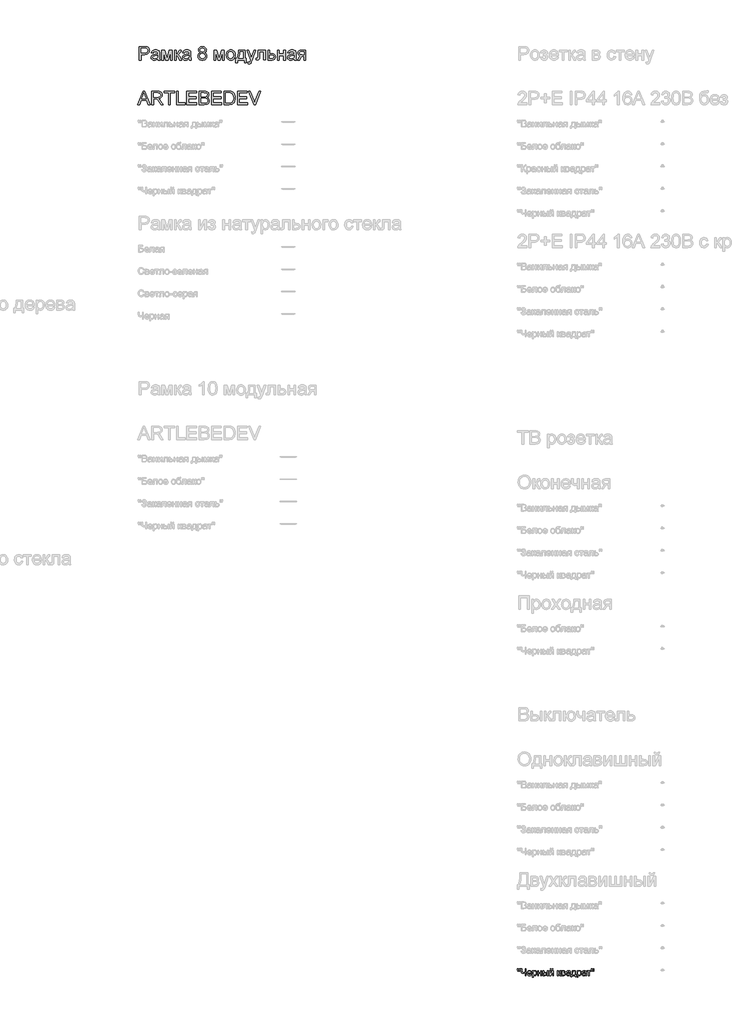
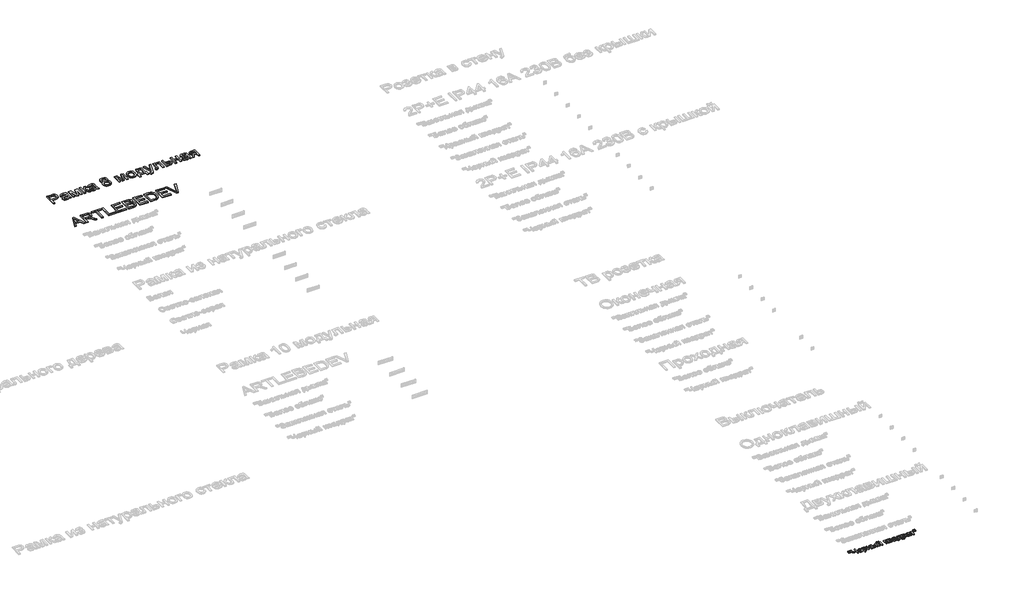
# One storey, part 131 of 168: 3 proxies.
"""IFC4 building model written with IfcOpenShell, lengths in millimetres."""

from ifc_helpers import new_model, si_unit, origin, origin_with_axes, place, context, project, spatial, polyline, outline, extrude, element, save

model = new_model("IFC4")

# Units and contexts
model_context = context("Model", 3, world=origin())
ifc_project = project(units=[si_unit("LENGTHUNIT", "METRE", prefix="MILLI")], contexts=[model_context])

# Site, building, storey
site = spatial("IfcSite", under=ifc_project)
building = spatial("IfcBuilding", under=site)
storey = spatial("IfcBuildingStorey", under=building, Name="Этаж 01", Elevation=0.0)

# Proxies
placement = place(None, origin())
element("IfcBuildingElementProxy", 1, Name="300 мм Arial 2", ObjectType="300 мм Arial 2", at=placement, inside=storey, context=model_context, shape_type="SweptSolid", body=[
    extrude(outline(polyline([(55099.0945017, -5048.4056816), (55099.0945017, -4747.0367511), (55210.7834754, -4747.0367511), (55255.8122316, -4749.9062307), (55275.8893915, -4755.2681108), (55292.4164901, -4763.9961111), (55305.7246213, -4776.4857048), (55316.1448788, -4793.1323651), (55322.8771193, -4812.7680666), (55325.1211995, -4834.224784), (55323.6059855, -4852.7246498), (55319.0603436, -4869.7437906), (55311.4842738, -4885.2822064), (55300.877776, -4899.3398971), (55286.3165468, -4910.9925593), (55266.8762826, -4919.3158895), (55242.5569835, -4924.3098875), (55213.3586494, -4925.9745536), (55136.765618, -4925.9745536), (55136.765618, -5048.4056816), (55099.0945017, -5048.4056816)]), holes=[polyline([(55136.765618, -4888.3034373), (55215.5659413, -4888.3034373), (55248.9696265, -4884.8453465), (55271.0425462, -4874.4710742), (55283.3481989, -4857.824414), (55287.4500832, -4835.5491592), (55285.0312591, -4818.6265874), (55277.7747867, -4804.352766), (55266.581977, -4793.6106117), (55252.3541408, -4787.2830414), (55214.6830245, -4784.7078674), (55136.765618, -4784.7078674), (55136.765618, -4888.3034373)])]), origin_with_axes(), (0.0, 0.0, 1.0), 20.0),
    extrude(outline(polyline([(55513.476781, -5020.1523443), (55495.4781544, -5035.584994), (55476.9460989, -5045.6833548), (55457.4575502, -5051.256767), (55436.589444, -5053.1145711), (55405.1079423, -5048.6448049), (55381.8853914, -5035.2355061), (55367.5655847, -5014.8732377), (55362.7923158, -4989.5445623), (55364.5949376, -4973.9279716), (55370.0028029, -4959.7461207), (55378.3445271, -4947.6060149), (55388.9487257, -4938.1146594), (55415.3258647, -4925.7538244), (55447.9202095, -4920.0884417), (55486.4374544, -4914.1287533), (55513.2560518, -4907.1389954), (55513.476781, -4898.7512859), (55510.883213, -4881.9390788), (55503.1025088, -4870.9394071), (55485.7016904, -4862.7724268), (55461.4582669, -4860.0501), (55439.0174652, -4861.8619189), (55423.3456922, -4867.2973753), (55412.6587202, -4877.3497509), (55405.1723216, -4893.0123268), (55367.5012053, -4888.3034373), (55374.0403078, -4867.7020455), (55383.7983777, -4851.5152378), (55397.685923, -4839.1360086), (55416.6134517, -4829.9573528), (55439.7624262, -4824.273576), (55466.3143092, -4822.3789837), (55491.7809404, -4824.0528468), (55511.9684648, -4829.074436), (55527.1895824, -4836.625214), (55537.7569927, -4845.8866432), (55544.7651447, -4857.3369703), (55549.3084874, -4871.4544419), (55551.1478973, -4904.4166687), (55551.1478973, -4951.2848348), (55553.0608837, -5016.7310418), (55560.5656764, -5048.4056816), (55522.8945601, -5048.4056816), (55513.476781, -5020.1523443)]), holes=[polyline([(55513.476781, -4944.8101117), (55452.7026754, -4956.3616064), (55420.2922716, -4962.4684475), (55405.61378, -4972.4012614), (55400.4634321, -4986.895812), (55403.2685323, -4998.0978187), (55411.683833, -5007.2764745), (55425.525393, -5013.4017097), (55444.6092715, -5015.4434548), (55464.8427813, -5013.1901776), (55482.7218462, -5006.4303459), (55497.2163968, -4996.4699409), (55507.2963635, -4984.6149436), (55511.7661297, -4972.4012614), (55513.2560518, -4955.4786896), (55513.476781, -4944.8101117)])]), origin_with_axes(), (0.0, 0.0, 1.0), 20.0),
    extrude(outline(polyline([(55602.9456823, -4827.0878733), (55667.7664898, -4827.0878733), (55717.7248647, -5004.2598421), (55771.5827888, -4827.0878733), (55833.6812696, -4827.0878733), (55833.6812696, -5048.4056816), (55796.0101533, -5048.4056816), (55796.0101533, -4870.2036431), (55741.8579236, -5048.4056816), (55692.4145835, -5048.4056816), (55640.6167986, -4861.6687808), (55640.6167986, -5048.4056816), (55602.9456823, -5048.4056816), (55602.9456823, -4827.0878733)])), origin_with_axes(), (0.0, 0.0, 1.0), 20.0),
    extrude(outline(polyline([(55890.1879441, -4827.0878733), (55927.8590604, -4827.0878733), (55927.8590604, -4921.265664), (55943.1813455, -4919.5734069), (55953.0957653, -4914.4966353), (55961.8697508, -4901.2528835), (55973.7707334, -4875.0596854), (55990.9508226, -4841.0306009), (56006.1075608, -4829.9573528), (56033.6619222, -4827.0878733), (56040.8724093, -4827.0878733), (56040.8724093, -4864.9797188), (56030.7188662, -4864.7589896), (56012.3247665, -4868.7321151), (55999.3753203, -4893.5273616), (55984.1817939, -4920.345959), (55962.8814263, -4933.4793463), (55974.8191971, -4938.7814455), (55986.6466032, -4948.1394438), (56009.9703217, -4979.0231373), (56050.2901884, -5048.4056816), (56007.4687241, -5048.4056816), (55967.9581979, -4980.4946653), (55948.0925701, -4951.7630814), (55938.8035497, -4946.5483542), (55927.8590604, -4944.8101117), (55927.8590604, -5048.4056816), (55890.1879441, -5048.4056816), (55890.1879441, -4827.0878733)])), origin_with_axes(), (0.0, 0.0, 1.0), 20.0),
    extrude(outline(polyline([(56215.1013222, -5020.1523443), (56197.1026956, -5035.584994), (56178.5706401, -5045.6833548), (56159.0820914, -5051.256767), (56138.2139852, -5053.1145711), (56106.7324835, -5048.6448049), (56083.5099326, -5035.2355061), (56069.1901259, -5014.8732377), (56064.416857, -4989.5445623), (56066.2194788, -4973.9279716), (56071.6273441, -4959.7461207), (56079.9690683, -4947.6060149), (56090.5732669, -4938.1146594), (56116.9504059, -4925.7538244), (56149.5447507, -4920.0884417), (56188.0619956, -4914.1287533), (56214.880593, -4907.1389954), (56215.1013222, -4898.7512859), (56212.5077542, -4881.9390788), (56204.72705, -4870.9394071), (56187.3262316, -4862.7724268), (56163.0828081, -4860.0501), (56140.6420064, -4861.8619189), (56124.9702334, -4867.2973753), (56114.2832614, -4877.3497509), (56106.7968628, -4893.0123268), (56069.1257465, -4888.3034373), (56075.664849, -4867.7020455), (56085.4229189, -4851.5152378), (56099.3104642, -4839.1360086), (56118.2379929, -4829.9573528), (56141.3869674, -4824.273576), (56167.9388504, -4822.3789837), (56193.4054816, -4824.0528468), (56213.593006, -4829.074436), (56228.8141236, -4836.625214), (56239.3815339, -4845.8866432), (56246.3896859, -4857.3369703), (56250.9330286, -4871.4544419), (56252.7724385, -4904.4166687), (56252.7724385, -4951.2848348), (56254.6854249, -5016.7310418), (56262.1902176, -5048.4056816), (56224.5191013, -5048.4056816), (56215.1013222, -5020.1523443)]), holes=[polyline([(56215.1013222, -4944.8101117), (56154.3272166, -4956.3616064), (56121.9168128, -4962.4684475), (56107.2383212, -4972.4012614), (56102.0879733, -4986.895812), (56104.8930735, -4998.0978187), (56113.3083742, -5007.2764745), (56127.1499342, -5013.4017097), (56146.2338127, -5015.4434548), (56166.4673225, -5013.1901776), (56184.3463874, -5006.4303459), (56198.840938, -4996.4699409), (56208.9209047, -4984.6149436), (56213.3906709, -4972.4012614), (56214.880593, -4955.4786896), (56215.1013222, -4944.8101117)])]), origin_with_axes(), (0.0, 0.0, 1.0), 20.0),
    extrude(outline(polyline([(56467.7626765, -4882.4173253), (56447.5935461, -4872.4845115), (56433.4392864, -4859.0200305), (56425.079168, -4842.2997938), (56422.2924619, -4822.5997129), (56423.8099751, -4807.2360411), (56428.3625148, -4793.1507592), (56435.950081, -4780.3438673), (56446.5726736, -4768.8153652), (56459.7198564, -4759.2872216), (56474.8811931, -4752.4814046), (56511.2463283, -4747.0367511), (56547.8321928, -4752.6101633), (56563.1590764, -4759.5769286), (56576.5085943, -4769.3304), (56587.3243249, -4781.0842298), (56595.0498468, -4794.0520701), (56599.68516, -4808.233921), (56601.2302644, -4823.6297825), (56598.4803464, -4842.6952669), (56590.2305927, -4859.1303951), (56576.3890326, -4872.5121026), (56556.8636957, -4882.4173253), (56580.0494585, -4894.3642931), (56596.926045, -4911.9582496), (56607.2175438, -4934.353066), (56610.6480434, -4960.7026139), (56608.9465892, -4979.4921868), (56603.8422265, -4996.7182612), (56595.3349554, -5012.3808372), (56583.4247758, -5026.4799147), (56568.7370871, -5038.1325769), (56551.8972888, -5046.455907), (56532.9053808, -5051.4499051), (56511.7613631, -5053.1145711), (56490.6173455, -5051.4430073), (56471.6254375, -5046.4283158), (56454.7856391, -5038.0704968), (56440.0979505, -5026.3695501), (56428.1877709, -5012.1716043), (56419.6804997, -4996.3227881), (56414.5761371, -4978.8231014), (56412.8746828, -4959.6725443), (56416.4431382, -4932.3021239), (56427.1485042, -4909.7877458), (56444.438958, -4892.9019622), (56467.7626765, -4882.4173253)]), holes=[polyline([(56450.5457991, -4958.3481691), (56456.8365813, -4986.711871), (56465.5461875, -4998.879568), (56479.093442, -5007.9386621), (56495.317038, -5013.5672566), (56512.0556687, -5015.4434548), (56537.6970438, -5011.4979204), (56556.9372721, -4999.6613172), (56568.9670134, -4981.736267), (56572.9769271, -4959.5253915), (56568.8382547, -4936.937437), (56556.4222374, -4918.6169137), (56536.7405506, -4906.4768078), (56510.8048699, -4902.4301059), (56485.5221798, -4906.4216255), (56466.4750895, -4918.3961845), (56454.5281217, -4936.3672199), (56450.5457991, -4958.3481691)]), polyline([(56459.9635782, -4823.7033589), (56463.3021073, -4840.1476841), (56473.3176946, -4853.2810713), (56489.7160346, -4861.88951), (56512.2028215, -4864.7589896), (56534.1653766, -4861.9079041), (56550.3153962, -4853.3546477), (56560.2482101, -4840.6627189), (56563.5591481, -4825.3956161), (56560.1378455, -4809.5490992), (56549.8739378, -4796.4433031), (56533.5031891, -4787.6417263), (56511.7613631, -4784.7078674), (56489.8815815, -4787.577347), (56473.5384238, -4796.1857857), (56463.3572896, -4808.8041381), (56459.9635782, -4823.7033589)])]), origin_with_axes(), (0.0, 0.0, 1.0), 20.0),
    extrude(outline(polyline([(56770.7502877, -4827.0878733), (56835.5710953, -4827.0878733), (56885.5294702, -5004.2598421), (56939.3873943, -4827.0878733), (57001.4858751, -4827.0878733), (57001.4858751, -5048.4056816), (56963.8147588, -5048.4056816), (56963.8147588, -4870.2036431), (56909.6625291, -5048.4056816), (56860.219189, -5048.4056816), (56808.421404, -4861.6687808), (56808.421404, -5048.4056816), (56770.7502877, -5048.4056816), (56770.7502877, -4827.0878733)])), origin_with_axes(), (0.0, 0.0, 1.0), 20.0),
    extrude(outline(polyline([(57048.5747705, -4937.7467774), (57050.611917, -4909.0841715), (57056.7233567, -4884.385494), (57066.9090894, -4863.6507451), (57081.1691153, -4846.8799246), (57095.5257101, -4836.160763), (57111.3722271, -4828.504219), (57128.7086661, -4823.9102925), (57147.5350272, -4822.3789837), (57168.3180607, -4824.2436856), (57187.1099328, -4829.8377912), (57203.9106437, -4839.1613005), (57218.7201933, -4852.2142135), (57230.8074161, -4868.5550719), (57239.4411466, -4887.7424172), (57244.621385, -4909.7762495), (57246.3481311, -4934.6565687), (57243.2947105, -4972.7139611), (57234.1344489, -5001.6846682), (57219.1340605, -5023.3805088), (57198.5602599, -5039.6133019), (57174.1236984, -5049.7392538), (57147.5350272, -5053.1145711), (57126.4484911, -5051.256767), (57107.481875, -5045.6833548), (57090.6351789, -5036.3943344), (57075.9084027, -5023.3897059), (57063.9499386, -5006.8901984), (57055.4081786, -4987.1165412), (57050.2831225, -4964.0687342), (57048.5747705, -4937.7467774)]), holes=[polyline([(57086.2458868, -4937.673201), (57090.6052884, -4971.7666649), (57103.6834934, -4996.0560737), (57123.3651801, -5010.5966095), (57147.5350272, -5015.4434548), (57171.5945097, -5010.5690184), (57191.2394082, -4995.9457091), (57204.3176132, -4971.3344036), (57208.6770148, -4936.4959786), (57204.290022, -4903.3957961), (57191.1290436, -4879.4374812), (57171.4565539, -4864.8969453), (57147.5350272, -4860.0501), (57123.3651801, -4864.8785512), (57103.6834934, -4879.3639048), (57090.6052884, -4903.5981312), (57086.2458868, -4937.673201)])]), origin_with_axes(), (0.0, 0.0, 1.0), 20.0),
    extrude(outline(polyline([(57321.6903637, -4827.0878733), (57462.9570499, -4827.0878733), (57462.9570499, -5010.7345653), (57491.2103871, -5010.7345653), (57491.2103871, -5109.6212456), (57453.5392708, -5109.6212456), (57453.5392708, -5048.4056816), (57298.145916, -5048.4056816), (57298.145916, -5109.6212456), (57260.4747997, -5109.6212456), (57260.4747997, -5010.7345653), (57284.0192474, -5010.7345653), (57301.1349572, -4979.8048865), (57313.1187132, -4938.8872116), (57319.9705154, -4887.9815405), (57321.6903637, -4827.0878733)]), holes=[polyline([(57354.6525905, -4864.7589896), (57351.5623817, -4910.8821947), (57345.8234226, -4950.5858591), (57337.4357131, -4983.8699826), (57326.3992533, -5010.7345653), (57425.2859336, -5010.7345653), (57425.2859336, -4864.7589896), (57354.6525905, -4864.7589896)])]), origin_with_axes(), (0.0, 0.0, 1.0), 20.0),
    extrude(outline(polyline([(57533.5903929, -5133.1656933), (57528.8815034, -5096.8925285), (57548.0113672, -5100.2034665), (57565.8904321, -5096.0463999), (57576.8533156, -5084.4581171), (57587.1540114, -5056.7198147), (57590.0970674, -5047.5963412), (57510.0459452, -4827.0878733), (57549.7772007, -4827.0878733), (57592.230783, -4949.9604597), (57607.0196392, -4999.1094942), (57621.8084954, -4955.6994188), (57665.4393, -4827.0878733), (57704.8762499, -4827.0878733), (57627.8417601, -5053.7031823), (57607.8289796, -5102.8522169), (57597.583466, -5118.5423839), (57585.9767891, -5129.4132969), (57572.4939139, -5135.7592613), (57556.6198058, -5137.8745828), (57533.5903929, -5133.1656933)])), origin_with_axes(), (0.0, 0.0, 1.0), 20.0),
    extrude(outline(polyline([(57754.9082012, -4827.0878733), (57924.4282246, -4827.0878733), (57924.4282246, -5048.1849524), (57886.7571083, -5048.1849524), (57886.7571083, -4864.7589896), (57792.5793175, -4864.7589896), (57792.5793175, -4970.3411222), (57790.0409318, -5019.0486984), (57785.286057, -5030.0759612), (57776.0982042, -5039.6133019), (57762.1554765, -5046.2075866), (57743.1359774, -5048.4056816), (57712.5281954, -5046.4926952), (57712.5281954, -5010.7345653), (57729.3771908, -5010.7345653), (57746.4101271, -5008.4169087), (57753.2159441, -5001.0592688), (57754.9082012, -4968.2074066), (57754.9082012, -4827.0878733)])), origin_with_axes(), (0.0, 0.0, 1.0), 20.0),
    extrude(outline(polyline([(57980.9348991, -4827.0878733), (58018.6060154, -4827.0878733), (58018.6060154, -4907.1389954), (58062.0160908, -4907.1389954), (58099.6504189, -4911.857082), (58114.7979601, -4917.7546902), (58127.499086, -4926.0113418), (58137.5422644, -4936.3419281), (58144.7159633, -4948.4613405), (58150.4549225, -4978.0666441), (58145.571289, -5005.0231973), (58130.9203885, -5027.7675016), (58119.6884913, -5036.7967054), (58105.5273338, -5043.2461366), (58068.4172375, -5048.4056816), (57980.9348991, -5048.4056816), (57980.9348991, -4827.0878733)]), holes=[polyline([(58018.6060154, -5010.7345653), (58053.7755341, -5010.7345653), (58081.0631811, -5008.7571995), (58099.2089605, -5002.8251024), (58109.3900947, -4992.6991504), (58112.7838061, -4978.1402205), (58110.2730115, -4965.8345678), (58102.7406277, -4954.9636548), (58086.5998051, -4947.3484975), (58058.2636945, -4944.8101117), (58018.6060154, -4944.8101117), (58018.6060154, -5010.7345653)])]), origin_with_axes(), (0.0, 0.0, 1.0), 20.0),
    extrude(outline(polyline([(58197.5438178, -4827.0878733), (58235.2149341, -4827.0878733), (58235.2149341, -4911.847885), (58334.1016144, -4911.847885), (58334.1016144, -4827.0878733), (58371.7727308, -4827.0878733), (58371.7727308, -5048.4056816), (58334.1016144, -5048.4056816), (58334.1016144, -4949.5190013), (58235.2149341, -4949.5190013), (58235.2149341, -5048.4056816), (58197.5438178, -5048.4056816), (58197.5438178, -4827.0878733)])), origin_with_axes(), (0.0, 0.0, 1.0), 20.0),
    extrude(outline(polyline([(58569.5460914, -5020.1523443), (58551.5474647, -5035.584994), (58533.0154092, -5045.6833548), (58513.5268605, -5051.256767), (58492.6587544, -5053.1145711), (58461.1772526, -5048.6448049), (58437.9547017, -5035.2355061), (58423.634895, -5014.8732377), (58418.8616261, -4989.5445623), (58420.6642479, -4973.9279716), (58426.0721132, -4959.7461207), (58434.4138375, -4947.6060149), (58445.018036, -4938.1146594), (58471.395175, -4925.7538244), (58503.9895198, -4920.0884417), (58542.5067647, -4914.1287533), (58569.3253622, -4907.1389954), (58569.5460914, -4898.7512859), (58566.9525233, -4881.9390788), (58559.1718191, -4870.9394071), (58541.7710007, -4862.7724268), (58517.5275772, -4860.0501), (58495.0867755, -4861.8619189), (58479.4150025, -4867.2973753), (58468.7280306, -4877.3497509), (58461.241632, -4893.0123268), (58423.5705157, -4888.3034373), (58430.1096181, -4867.7020455), (58439.8676881, -4851.5152378), (58453.7552334, -4839.1360086), (58472.682762, -4829.9573528), (58495.8317366, -4824.273576), (58522.3836196, -4822.3789837), (58547.8502507, -4824.0528468), (58568.0377752, -4829.074436), (58583.2588927, -4836.625214), (58593.826303, -4845.8866432), (58600.834455, -4857.3369703), (58605.3777977, -4871.4544419), (58607.2172077, -4904.4166687), (58607.2172077, -4951.2848348), (58609.130194, -5016.7310418), (58616.6349867, -5048.4056816), (58578.9638704, -5048.4056816), (58569.5460914, -5020.1523443)]), holes=[polyline([(58569.5460914, -4944.8101117), (58508.7719858, -4956.3616064), (58476.361582, -4962.4684475), (58461.6830904, -4972.4012614), (58456.5327424, -4986.895812), (58459.3378427, -4998.0978187), (58467.7531433, -5007.2764745), (58481.5947034, -5013.4017097), (58500.6785819, -5015.4434548), (58520.9120916, -5013.1901776), (58538.7911566, -5006.4303459), (58553.2857072, -4996.4699409), (58563.3656738, -4984.6149436), (58567.8354401, -4972.4012614), (58569.3253622, -4955.4786896), (58569.5460914, -4944.8101117)])]), origin_with_axes(), (0.0, 0.0, 1.0), 20.0),
    extrude(outline(polyline([(58828.535016, -4827.0878733), (58828.535016, -5048.4056816), (58790.8638997, -5048.4056816), (58790.8638997, -4963.6456699), (58770.3360843, -4963.6456699), (58742.3770527, -4968.4281358), (58731.2118341, -4978.8575904), (58716.1102782, -5000.5810222), (58686.0911074, -5048.4056816), (58642.5338792, -5048.4056816), (58680.3521483, -4987.9258816), (58697.0539909, -4966.2208438), (58712.4314583, -4956.5823356), (58686.6797186, -4948.6912668), (58668.5799245, -4933.7000755), (58657.8745584, -4913.7608713), (58654.306103, -4891.025764), (58659.1805395, -4865.2372362), (58673.8038488, -4844.8197854), (58697.6609962, -4831.5208513), (58730.2369469, -4827.0878733), (58828.535016, -4827.0878733)]), holes=[polyline([(58790.8638997, -4864.7589896), (58741.1998303, -4864.7589896), (58715.5492582, -4866.9386904), (58700.9903282, -4873.4777929), (58694.2304966, -4882.9415572), (58691.9772194, -4893.8952436), (58695.2973544, -4908.2518385), (58705.2577594, -4918.2122435), (58723.6610562, -4924.033976), (58752.3098666, -4925.9745536), (58790.8638997, -4925.9745536), (58790.8638997, -4864.7589896)])]), origin_with_axes(), (0.0, 0.0, 1.0), 20.0),
])
element("IfcBuildingElementProxy", 2, Name="300 мм Arial 2", ObjectType="300 мм Arial 2", at=placement, inside=storey, context=model_context, shape_type="SweptSolid", body=[
    extrude(outline(polyline([(55063.9985593, -6048.4056816), (55184.2959717, -5747.0367511), (55216.3752817, -5747.0367511), (55336.6726941, -6048.4056816), (55296.8678623, -6048.4056816), (55262.3605311, -5954.2278908), (55138.2371459, -5954.2278908), (55103.8033912, -6048.4056816), (55063.9985593, -6048.4056816)]), holes=[polyline([(55152.069509, -5916.5567745), (55248.6017445, -5916.5567745), (55221.4520533, -5842.4653407), (55200.3356267, -5784.7078674), (55181.573645, -5835.9906176), (55152.069509, -5916.5567745)])]), origin_with_axes(), (0.0, 0.0, 1.0), 20.0),
    extrude(outline(polyline([(55376.9189844, -6048.4056816), (55376.9189844, -5747.0367511), (55506.7813287, -5747.0367511), (55541.684133, -5749.0692991), (55567.0771877, -5755.1669432), (55585.6368344, -5766.4241323), (55600.0394145, -5783.9353152), (55609.2824496, -5805.64955), (55612.3634613, -5829.5158944), (55607.2590986, -5859.2039714), (55591.9460106, -5883.8152769), (55580.3462314, -5893.8446598), (55565.9643447, -5901.8598888), (55528.8542484, -5911.847885), (55550.2649805, -5927.9611163), (55580.7991861, -5966.7358786), (55631.0518667, -6048.4056816), (55587.2739093, -6048.4056816), (55548.0576886, -5985.9393188), (55519.7307749, -5944.5893825), (55499.828359, -5925.0548486), (55481.9125058, -5917.8811497), (55460.0603153, -5916.5567745), (55414.5901007, -5916.5567745), (55414.5901007, -6048.4056816), (55376.9189844, -6048.4056816)]), holes=[polyline([(55414.5901007, -5878.8856582), (55498.908654, -5878.8856582), (55523.1244863, -5877.552086), (55541.9140593, -5873.5513693), (55556.059122, -5866.6167937), (55566.3414237, -5856.4816447), (55572.6046147, -5844.2219772), (55574.692345, -5830.913846), (55570.7100224, -5812.5381404), (55558.7630546, -5797.7308901), (55538.2076482, -5787.9636231), (55508.4000095, -5784.7078674), (55414.5901007, -5784.7078674), (55414.5901007, -5878.8856582)])]), origin_with_axes(), (0.0, 0.0, 1.0), 20.0),
    extrude(outline(polyline([(55753.6301475, -6048.4056816), (55753.6301475, -5784.7078674), (55654.7434672, -5784.7078674), (55654.7434672, -5747.0367511), (55890.1879441, -5747.0367511), (55890.1879441, -5784.7078674), (55791.3012638, -5784.7078674), (55791.3012638, -6048.4056816), (55753.6301475, -6048.4056816)])), origin_with_axes(), (0.0, 0.0, 1.0), 20.0),
    extrude(outline(polyline([(55932.5679499, -6048.4056816), (55932.5679499, -5747.0367511), (55970.2390662, -5747.0367511), (55970.2390662, -6010.7345653), (56120.9235315, -6010.7345653), (56120.9235315, -6048.4056816), (55932.5679499, -6048.4056816)])), origin_with_axes(), (0.0, 0.0, 1.0), 20.0),
    extrude(outline(polyline([(56163.3035373, -6048.4056816), (56163.3035373, -5747.0367511), (56379.9124561, -5747.0367511), (56379.9124561, -5784.7078674), (56200.9746536, -5784.7078674), (56200.9746536, -5874.1767687), (56370.494677, -5874.1767687), (56370.494677, -5911.847885), (56200.9746536, -5911.847885), (56200.9746536, -6010.7345653), (56384.6213456, -6010.7345653), (56384.6213456, -6048.4056816), (56163.3035373, -6048.4056816)])), origin_with_axes(), (0.0, 0.0, 1.0), 20.0),
    extrude(outline(polyline([(56441.1280201, -6048.4056816), (56441.1280201, -5747.0367511), (56556.1279318, -5747.0367511), (56587.7565863, -5749.2532401), (56612.4506652, -5755.9027072), (56631.3781939, -5767.1506992), (56645.7071976, -5783.162763), (56654.7295035, -5801.9983212), (56657.7369388, -5821.7167961), (56655.2077501, -5839.8625756), (56647.620184, -5856.9231031), (56634.9190581, -5871.849915), (56617.0491902, -5883.5945477), (56638.3955429, -5894.7413722), (56654.1684835, -5911.7007322), (56663.9081593, -5933.3505876), (56667.1547179, -5958.5688983), (56664.9382289, -5979.5841573), (56658.2887618, -5999.072706), (56648.365145, -6015.6457899), (56636.3262067, -6027.9146544), (56621.5833357, -6036.7990046), (56603.5479209, -6043.2185454), (56555.245015, -6048.4056816), (56441.1280201, -6048.4056816)]), holes=[polyline([(56478.7991364, -5869.4678791), (56547.5930695, -5869.4678791), (56587.7657833, -5866.2305176), (56601.8280726, -5860.6479083), (56611.9356304, -5852.2877899), (56618.0332745, -5841.2789212), (56620.0658225, -5827.7500609), (56618.1712302, -5814.6166736), (56612.4874534, -5803.1755436), (56603.2720094, -5794.2452082), (56590.7824157, -5788.6442048), (56542.3691451, -5784.7078674), (56478.7991364, -5784.7078674), (56478.7991364, -5869.4678791)]), polyline([(56478.7991364, -6010.7345653), (56556.0543554, -6010.7345653), (56584.013387, -6009.2630373), (56607.6681993, -6001.0592688), (56623.3399723, -5984.320638), (56627.9476943, -5972.4932319), (56629.4836016, -5958.9367803), (56627.6809798, -5943.1914309), (56622.2731145, -5929.6533735), (56612.8277443, -5919.0675691), (56598.9126078, -5912.1789788), (56579.2033299, -5908.3989913), (56552.3755354, -5907.1389954), (56478.7991364, -5907.1389954), (56478.7991364, -6010.7345653)])]), origin_with_axes(), (0.0, 0.0, 1.0), 20.0),
    extrude(outline(polyline([(56718.9525028, -6048.4056816), (56718.9525028, -5747.0367511), (56935.5614216, -5747.0367511), (56935.5614216, -5784.7078674), (56756.6236191, -5784.7078674), (56756.6236191, -5874.1767687), (56926.1436425, -5874.1767687), (56926.1436425, -5911.847885), (56756.6236191, -5911.847885), (56756.6236191, -6010.7345653), (56940.2703111, -6010.7345653), (56940.2703111, -6048.4056816), (56718.9525028, -6048.4056816)])), origin_with_axes(), (0.0, 0.0, 1.0), 20.0),
    extrude(outline(polyline([(56996.7769856, -6048.4056816), (56996.7769856, -5747.0367511), (57100.7404374, -5747.0367511), (57154.5247851, -5751.3777587), (57178.5474794, -5759.7470741), (57198.8177773, -5772.9356436), (57219.6582924, -5795.8914801), (57234.5023309, -5824.4391229), (57243.386681, -5858.0267491), (57246.3481311, -5896.1025356), (57244.3431742, -5928.44856), (57238.3283036, -5956.9134294), (57229.1680419, -5981.1476558), (57217.7269119, -6000.8017514), (57204.5567365, -6016.3171745), (57190.2093386, -6028.1353836), (57173.7374223, -6036.9001722), (57154.1936913, -6043.2553336), (57105.7436325, -6048.4056816), (56996.7769856, -6048.4056816)]), holes=[polyline([(57034.4481019, -6010.7345653), (57101.1083194, -6010.7345653), (57128.6810749, -6009.3734019), (57149.5951664, -6005.2899117), (57165.377304, -5998.7232181), (57177.554198, -5989.9124443), (57190.6416, -5973.6060749), (57200.4732463, -5952.4988454), (57206.6260727, -5926.4987854), (57208.6770148, -5895.5139244), (57204.657904, -5854.4582937), (57192.6005716, -5824.1448173), (57174.785886, -5803.3226964), (57153.4947155, -5790.7411321), (57131.826466, -5786.2161836), (57100.0782498, -5784.7078674), (57034.4481019, -5784.7078674), (57034.4481019, -6010.7345653)])]), origin_with_axes(), (0.0, 0.0, 1.0), 20.0),
    extrude(outline(polyline([(57298.145916, -6048.4056816), (57298.145916, -5747.0367511), (57514.7548348, -5747.0367511), (57514.7548348, -5784.7078674), (57335.8170323, -5784.7078674), (57335.8170323, -5874.1767687), (57505.3370557, -5874.1767687), (57505.3370557, -5911.847885), (57335.8170323, -5911.847885), (57335.8170323, -6010.7345653), (57519.4637243, -6010.7345653), (57519.4637243, -6048.4056816), (57298.145916, -6048.4056816)])), origin_with_axes(), (0.0, 0.0, 1.0), 20.0),
    extrude(outline(polyline([(57664.9978416, -6048.4056816), (57545.0683112, -5747.0367511), (57585.3881779, -5747.0367511), (57665.6600292, -5964.1607047), (57681.9204134, -6013.08901), (57697.9600684, -5964.1607047), (57778.4526489, -5747.0367511), (57818.7725156, -5747.0367511), (57703.9197567, -6048.4056816), (57664.9978416, -6048.4056816)])), origin_with_axes(), (0.0, 0.0, 1.0), 20.0),
])
element("IfcBuildingElementProxy", 3, Name="150", ObjectType="150", at=placement, inside=storey, context=model_context, shape_type="SweptSolid", body=[
    extrude(outline(polyline([(63580.1485789, -25451.873446), (63575.550054, -25422.7739802), (63575.550054, -25397.7212163), (63594.3856121, -25397.7212163), (63594.3856121, -25422.7739802), (63590.2653338, -25451.873446), (63580.1485789, -25451.873446)])), origin_with_axes(), (0.0, 0.0, 1.0), 20.0),
    extrude(outline(polyline([(63617.7093306, -25451.873446), (63613.2211703, -25422.7739802), (63613.2211703, -25397.7212163), (63632.0567284, -25397.7212163), (63632.0567284, -25422.7739802), (63627.6421445, -25451.873446), (63617.7093306, -25451.873446)])), origin_with_axes(), (0.0, 0.0, 1.0), 20.0),
    extrude(outline(polyline([(63763.9056355, -25548.4056816), (63745.0700773, -25548.4056816), (63745.0700773, -25488.0730344), (63720.0908899, -25496.2400147), (63698.4226404, -25498.9623414), (63683.7395502, -25497.0999388), (63670.886673, -25491.512731), (63660.926268, -25483.0606422), (63654.9205944, -25472.6035965), (63650.8922866, -25442.6028198), (63650.8922866, -25397.7212163), (63669.7278447, -25397.7212163), (63669.7278447, -25440.064434), (63671.990319, -25460.4313009), (63678.7777418, -25472.3828673), (63688.7381468, -25478.1908043), (63700.5195677, -25480.1267833), (63722.2521966, -25477.7907326), (63745.0700773, -25470.7825806), (63745.0700773, -25397.7212163), (63763.9056355, -25397.7212163), (63763.9056355, -25548.4056816)])), origin_with_axes(), (0.0, 0.0, 1.0), 20.0),
    extrude(outline(polyline([(63871.9893657, -25515.4434548), (63890.4570418, -25517.7978996), (63883.8029763, -25531.713036), (63873.1849822, -25542.1148995), (63858.8421829, -25548.5988196), (63841.0137017, -25550.7601263), (63818.9131908, -25547.0307226), (63801.9078456, -25535.8425114), (63791.0645238, -25517.9220597), (63787.4500832, -25493.9959345), (63791.101312, -25469.2650674), (63802.0549984, -25450.7698), (63818.8304174, -25439.2366995), (63839.9468439, -25435.3923327), (63860.4056814, -25439.2275025), (63876.7534375, -25450.7330118), (63887.4725992, -25469.191491), (63891.045653, -25493.8855699), (63890.9352884, -25498.9623414), (63806.2856413, -25498.9623414), (63809.5459955, -25513.0614189), (63817.1197661, -25523.4264941), (63828.0504599, -25529.8000497), (63841.3815837, -25531.9245682), (63859.8492598, -25527.9882308), (63871.9893657, -25515.4434548)]), holes=[polyline([(63806.2856413, -25480.1267833), (63872.2100949, -25480.1267833), (63869.6625121, -25470.1755753), (63864.668514, -25463.0570587), (63853.6872364, -25456.4351828), (63839.8732675, -25454.2278908), (63827.1767401, -25455.9891259), (63816.6783077, -25461.272831), (63809.3804486, -25469.5087892), (63806.2856413, -25480.1267833)])]), origin_with_axes(), (0.0, 0.0, 1.0), 20.0),
    extrude(outline(polyline([(63909.8812112, -25590.7856874), (63909.8812112, -25437.7467774), (63928.7167693, -25437.7467774), (63928.7167693, -25456.2144536), (63941.739792, -25440.5978629), (63959.3245513, -25435.3923327), (63972.0624654, -25437.2133485), (63983.2000928, -25442.6763962), (63992.268384, -25451.4503817), (63998.7982894, -25463.2042115), (64004.0590019, -25492.2301009), (64002.5736784, -25508.3387338), (63998.1177077, -25522.7459124), (63990.8336442, -25534.7204713), (63980.8640422, -25543.5312451), (63969.2527667, -25548.952906), (63957.043683, -25550.7601263), (63940.6545401, -25545.9224781), (63928.7167693, -25533.6904018), (63928.7167693, -25590.7856874), (63909.8812112, -25590.7856874)]), holes=[polyline([(63928.7167693, -25493.9591463), (63930.7539159, -25510.8449299), (63936.8653555, -25522.6539419), (63945.8830629, -25529.6069116), (63956.6390128, -25531.9245682), (63967.5697066, -25529.5241382), (63976.8173402, -25522.3228481), (63983.1219179, -25510.0815747), (63985.2234438, -25492.5611947), (63983.1725017, -25475.7673816), (63977.0196753, -25463.7928227), (63968.0157635, -25456.6191238), (63957.411565, -25454.2278908), (63946.7659797, -25456.7708751), (63937.4171785, -25464.399828), (63930.8918716, -25476.8756261), (63928.7167693, -25493.9591463)])]), origin_with_axes(), (0.0, 0.0, 1.0), 20.0),
    extrude(outline(polyline([(64025.2490049, -25437.7467774), (64044.084563, -25437.7467774), (64044.084563, -25480.1267833), (64093.5279032, -25480.1267833), (64093.5279032, -25437.7467774), (64112.3634613, -25437.7467774), (64112.3634613, -25548.4056816), (64093.5279032, -25548.4056816), (64093.5279032, -25498.9623414), (64044.084563, -25498.9623414), (64044.084563, -25548.4056816), (64025.2490049, -25548.4056816), (64025.2490049, -25437.7467774)])), origin_with_axes(), (0.0, 0.0, 1.0), 20.0),
    extrude(outline(polyline([(64244.2123684, -25437.7467774), (64263.0479266, -25437.7467774), (64263.0479266, -25548.4056816), (64244.2123684, -25548.4056816), (64244.2123684, -25437.7467774)])), origin_with_axes(), (0.0, 0.0, 1.0), 20.0),
    extrude(outline(polyline([(64140.6167986, -25437.7467774), (64159.4523567, -25437.7467774), (64159.4523567, -25477.7723385), (64182.739287, -25477.7723385), (64202.8670307, -25480.1313818), (64217.780047, -25487.2085117), (64227.0092866, -25498.433511), (64230.0856998, -25513.2361628), (64227.5059273, -25526.7144394), (64219.7666098, -25538.0865916), (64206.3619096, -25545.8259091), (64186.785989, -25548.4056816), (64140.6167986, -25548.4056816), (64140.6167986, -25437.7467774)]), holes=[polyline([(64159.4523567, -25529.5701234), (64178.8029497, -25529.5701234), (64203.7821371, -25525.615392), (64209.3831405, -25520.552416), (64211.2501416, -25513.272951), (64205.7135176, -25501.6846682), (64196.8337659, -25497.8770895), (64181.267759, -25496.6078966), (64159.4523567, -25496.6078966), (64159.4523567, -25529.5701234)])]), origin_with_axes(), (0.0, 0.0, 1.0), 20.0),
    extrude(outline(polyline([(64291.3012638, -25437.7467774), (64310.1368219, -25437.7467774), (64310.1368219, -25522.1389071), (64356.4163769, -25437.7467774), (64380.770165, -25437.7467774), (64380.770165, -25548.4056816), (64361.9346069, -25548.4056816), (64361.9346069, -25464.5285867), (64315.9493575, -25548.4056816), (64291.3012638, -25548.4056816), (64291.3012638, -25437.7467774)])), origin_with_axes(), (0.0, 0.0, 1.0), 20.0),
    extrude(outline(polyline([(64352.5168278, -25397.7212163), (64366.6434964, -25397.7212163), (64363.6038714, -25409.7831473), (64357.5016288, -25418.672096), (64348.6126801, -25424.1489392), (64337.2129368, -25425.9745536), (64324.8429047, -25424.1627347), (64315.2503817, -25418.7272783), (64308.6928851, -25409.8521251), (64305.4279324, -25397.7212163), (64319.554601, -25397.7212163), (64324.8521017, -25408.3346119), (64335.5206796, -25411.847885), (64347.219327, -25408.4449765), (64352.5168278, -25397.7212163)])), origin_with_axes(), (0.0, 0.0, 1.0), 20.0),
    extrude(outline(polyline([(64467.8846215, -25437.7467774), (64486.7201796, -25437.7467774), (64486.7201796, -25484.8356728), (64499.3385321, -25481.4511584), (64509.6760161, -25461.7326835), (64518.2660607, -25444.7181412), (64525.8444298, -25439.1815172), (64539.6216105, -25437.7467774), (64543.2268541, -25437.7467774), (64543.2268541, -25456.6927002), (64538.1500825, -25456.5823356), (64528.9530327, -25458.5688983), (64522.4783096, -25470.9665216), (64514.8815464, -25484.3758203), (64504.2313626, -25490.9425139), (64516.113951, -25498.2725627), (64527.7758103, -25513.7144094), (64547.9357436, -25548.4056816), (64526.5250115, -25548.4056816), (64506.7697484, -25514.4501734), (64496.8369345, -25500.0843815), (64486.7201796, -25496.6078966), (64486.7201796, -25548.4056816), (64467.8846215, -25548.4056816), (64467.8846215, -25437.7467774)])), origin_with_axes(), (0.0, 0.0, 1.0), 20.0),
    extrude(outline(polyline([(64559.7079675, -25437.7467774), (64601.2050565, -25437.7467774), (64623.9585579, -25440.2667691), (64636.7608514, -25449.5006072), (64642.1135344, -25465.5954445), (64638.8761728, -25478.6736494), (64629.1273, -25487.999458), (64641.7824406, -25498.2081833), (64646.8224239, -25515.9584896), (64643.6310476, -25530.3150845), (64636.0434815, -25540.4226423), (64624.0321343, -25546.4099217), (64607.569415, -25548.4056816), (64559.7079675, -25548.4056816), (64559.7079675, -25437.7467774)]), holes=[polyline([(64578.5435256, -25480.1267833), (64597.1583546, -25480.1267833), (64612.5174279, -25479.1702901), (64619.9854324, -25475.3443173), (64623.2779762, -25468.4281358), (64621.8340394, -25462.8087383), (64617.5022289, -25459.1942977), (64597.7469658, -25456.5823356), (64578.5435256, -25456.5823356), (64578.5435256, -25480.1267833)]), polyline([(64578.5435256, -25529.5701234), (64601.6465149, -25529.5701234), (64622.137542, -25526.167215), (64626.377382, -25521.5273033), (64627.9868658, -25514.4133852), (64624.7678983, -25505.345094), (64616.3801888, -25500.0659874), (64599.8071049, -25498.9623414), (64578.5435256, -25498.9623414), (64578.5435256, -25529.5701234)])]), origin_with_axes(), (0.0, 0.0, 1.0), 20.0),
    extrude(outline(polyline([(64741.0002147, -25534.279013), (64722.7348736, -25547.0445182), (64702.5565462, -25550.7601263), (64686.8157953, -25548.5252432), (64675.2045198, -25541.8205939), (64668.0446165, -25531.6394596), (64665.6579821, -25518.975122), (64669.2632256, -25504.0759012), (64678.736187, -25493.2601705), (64691.9247565, -25487.079753), (64708.2219289, -25484.2470616), (64740.8898501, -25477.7723385), (64741.0002147, -25473.5784838), (64739.7034307, -25465.1723802), (64735.8130786, -25459.6725443), (64727.1126694, -25455.5890542), (64714.9909576, -25454.2278908), (64695.9346703, -25457.8515285), (64686.847985, -25470.7090042), (64668.0124268, -25468.3545594), (64676.161013, -25449.9604597), (64692.56855, -25439.1815172), (64717.4189788, -25435.3923327), (64740.2460566, -25438.7400588), (64753.1403205, -25447.1461624), (64758.9160679, -25459.9300617), (64759.8357728, -25476.4111751), (64759.8357728, -25499.8452582), (64760.792266, -25532.5683617), (64764.5446624, -25548.4056816), (64745.7091042, -25548.4056816), (64741.0002147, -25534.279013)]), holes=[polyline([(64741.0002147, -25496.6078966), (64710.6131619, -25502.383644), (64694.40796, -25505.4370645), (64687.0687142, -25510.4034715), (64684.4935402, -25517.6507468), (64690.1037407, -25527.841078), (64706.5664599, -25531.9245682), (64725.6227473, -25527.4180137), (64737.9100059, -25516.5103126), (64740.8898501, -25501.9421856), (64741.0002147, -25496.6078966)])]), origin_with_axes(), (0.0, 0.0, 1.0), 20.0),
    extrude(outline(polyline([(64802.2157787, -25437.7467774), (64872.8491218, -25437.7467774), (64872.8491218, -25529.5701234), (64886.9757904, -25529.5701234), (64886.9757904, -25579.0134636), (64868.1402322, -25579.0134636), (64868.1402322, -25548.4056816), (64790.4435548, -25548.4056816), (64790.4435548, -25579.0134636), (64771.6079967, -25579.0134636), (64771.6079967, -25529.5701234), (64783.3802205, -25529.5701234), (64791.9380754, -25514.105284), (64797.9299534, -25493.6464466), (64802.2157787, -25437.7467774)]), holes=[polyline([(64818.6968921, -25456.5823356), (64814.2823081, -25499.4957703), (64804.5702235, -25529.5701234), (64854.0135636, -25529.5701234), (64854.0135636, -25456.5823356), (64818.6968921, -25456.5823356)])]), origin_with_axes(), (0.0, 0.0, 1.0), 20.0),
    extrude(outline(polyline([(64908.1657933, -25590.7856874), (64908.1657933, -25437.7467774), (64927.0013514, -25437.7467774), (64927.0013514, -25456.2144536), (64940.0243741, -25440.5978629), (64957.6091334, -25435.3923327), (64970.3470475, -25437.2133485), (64981.4846749, -25442.6763962), (64990.5529661, -25451.4503817), (64997.0828715, -25463.2042115), (65002.3435841, -25492.2301009), (65000.8582605, -25508.3387338), (64996.4022898, -25522.7459124), (64989.1182263, -25534.7204713), (64979.1486243, -25543.5312451), (64967.5373488, -25548.952906), (64955.3282651, -25550.7601263), (64938.9391222, -25545.9224781), (64927.0013514, -25533.6904018), (64927.0013514, -25590.7856874), (64908.1657933, -25590.7856874)]), holes=[polyline([(64927.0013514, -25493.9591463), (64929.038498, -25510.8449299), (64935.1499376, -25522.6539419), (64944.167645, -25529.6069116), (64954.9235949, -25531.9245682), (64965.8542887, -25529.5241382), (64975.1019223, -25522.3228481), (64981.4065, -25510.0815747), (64983.5080259, -25492.5611947), (64981.4570838, -25475.7673816), (64975.3042574, -25463.7928227), (64966.3003456, -25456.6191238), (64955.6961471, -25454.2278908), (64945.0505618, -25456.7708751), (64935.7017606, -25464.399828), (64929.1764537, -25476.8756261), (64927.0013514, -25493.9591463)])]), origin_with_axes(), (0.0, 0.0, 1.0), 20.0),
    extrude(outline(polyline([(65094.1669301, -25534.279013), (65075.901589, -25547.0445182), (65055.7232616, -25550.7601263), (65039.9825107, -25548.5252432), (65028.3712352, -25541.8205939), (65021.2113319, -25531.6394596), (65018.8246974, -25518.975122), (65022.429941, -25504.0759012), (65031.9029024, -25493.2601705), (65045.0914719, -25487.079753), (65061.3886443, -25484.2470616), (65094.0565655, -25477.7723385), (65094.1669301, -25473.5784838), (65092.870146, -25465.1723802), (65088.9797939, -25459.6725443), (65080.2793847, -25455.5890542), (65068.157673, -25454.2278908), (65049.1013856, -25457.8515285), (65040.0147004, -25470.7090042), (65021.1791422, -25468.3545594), (65029.3277284, -25449.9604597), (65045.7352654, -25439.1815172), (65070.5856942, -25435.3923327), (65093.412772, -25438.7400588), (65106.3070359, -25447.1461624), (65112.0827832, -25459.9300617), (65113.0024882, -25476.4111751), (65113.0024882, -25499.8452582), (65113.9589814, -25532.5683617), (65117.7113777, -25548.4056816), (65098.8758196, -25548.4056816), (65094.1669301, -25534.279013)]), holes=[polyline([(65094.1669301, -25496.6078966), (65063.7798773, -25502.383644), (65047.5746754, -25505.4370645), (65040.2354296, -25510.4034715), (65037.6602556, -25517.6507468), (65043.270456, -25527.841078), (65059.7331753, -25531.9245682), (65078.7894627, -25527.4180137), (65091.0767213, -25516.5103126), (65094.0565655, -25501.9421856), (65094.1669301, -25496.6078966)])]), origin_with_axes(), (0.0, 0.0, 1.0), 20.0),
    extrude(outline(polyline([(65129.4836016, -25437.7467774), (65218.9525028, -25437.7467774), (65218.9525028, -25456.5823356), (65183.6358313, -25456.5823356), (65183.6358313, -25548.4056816), (65164.8002731, -25548.4056816), (65164.8002731, -25456.5823356), (65129.4836016, -25456.5823356), (65129.4836016, -25437.7467774)])), origin_with_axes(), (0.0, 0.0, 1.0), 20.0),
    extrude(outline(polyline([(65235.3232516, -25451.873446), (65230.7247267, -25422.7739802), (65230.7247267, -25397.7212163), (65249.5602848, -25397.7212163), (65249.5602848, -25422.7739802), (65245.4400065, -25451.873446), (65235.3232516, -25451.873446)])), origin_with_axes(), (0.0, 0.0, 1.0), 20.0),
    extrude(outline(polyline([(65272.8840033, -25451.873446), (65268.395843, -25422.7739802), (65268.395843, -25397.7212163), (65287.2314011, -25397.7212163), (65287.2314011, -25422.7739802), (65282.8168172, -25451.873446), (65272.8840033, -25451.873446)])), origin_with_axes(), (0.0, 0.0, 1.0), 20.0),
])

save(model, "model.ifc")
